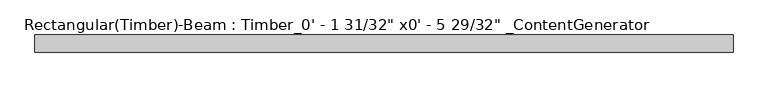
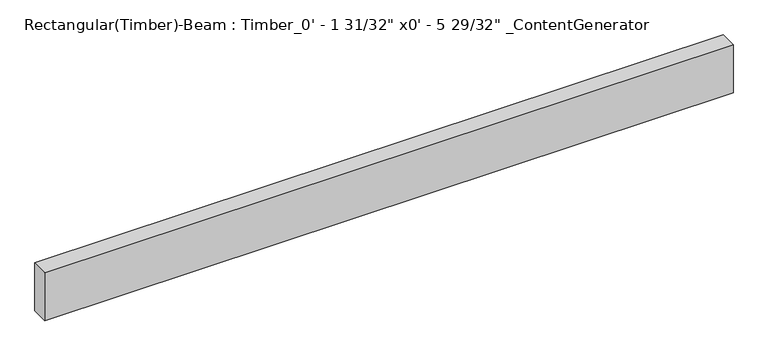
"""IFC4 building model written with IfcOpenShell, lengths in millimetres: beam geometry."""

from ifc_helpers import new_model, si_unit, frame, origin, place, context, project, spatial, polyline, outline, extrude, source, transform, mapped, element, save


def beam_5d9cf81a(model_context):
    return source(origin(), model_context, "Body", "SweptSolid", [
        extrude(outline(polyline([(1033.4625, 25.4), (1033.4625, -25.4), (-1033.4625, -25.4), (-1033.4625, 25.4), (1033.4625, 25.4)])), frame((0.0, 0.0, -76.2), z_axis=(0.0, 0.0, 1.0), x_axis=(1.0, 0.0, 0.0)), (0.0, 0.0, 1.0), 152.4),
    ])


if __name__ == "__main__":
    model = new_model("IFC4")
    model_context = context("Model", 3, world=origin())
    ifc_project = project(units=[si_unit("LENGTHUNIT", "METRE", prefix="MILLI")], contexts=[model_context])
    site = spatial("IfcSite", under=ifc_project)
    building = spatial("IfcBuilding", under=site)
    placement = place(None, origin())
    beam_shape = beam_5d9cf81a(model_context)
    element("IfcBeam", 1, ObjectType="Rectangular(Timber)-Beam : Timber_0' - 1 31/32\" x0' - 5 29/32\" _ContentGenerator", at=placement, inside=building, context=model_context, shape_type="MappedRepresentation", body=[
        mapped(beam_shape, transform((0.0, 0.0, 0.0), x_axis=(1.0, 0.0, 0.0), y_axis=(0.0, 1.0, 0.0), z_axis=(0.0, 0.0, 1.0))),
    ])
    save(model, "model.ifc")
